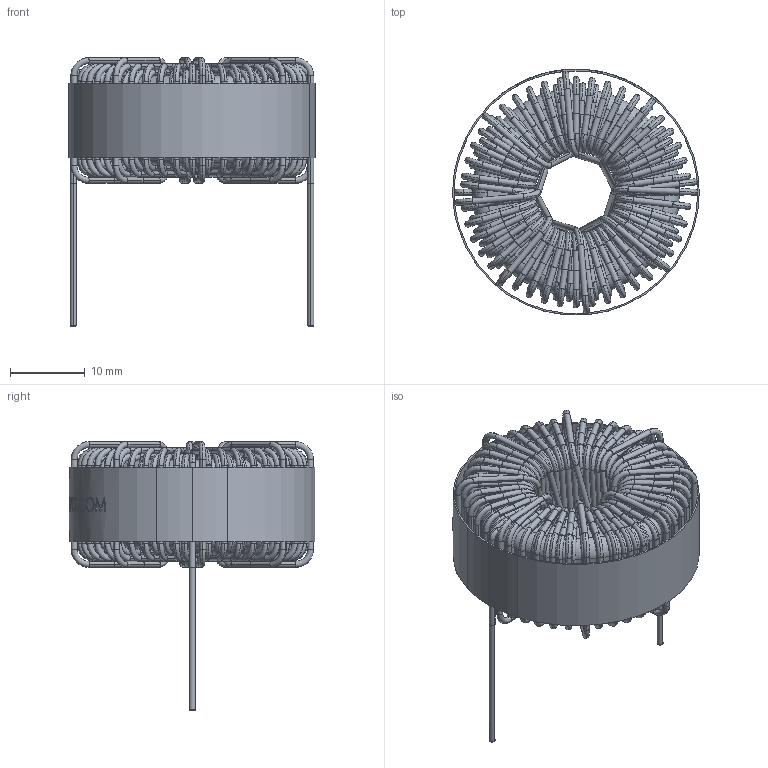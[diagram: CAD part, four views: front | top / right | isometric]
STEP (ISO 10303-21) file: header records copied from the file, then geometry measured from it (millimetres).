
FILE_DESCRIPTION (( 'STEP AP214' ), '1' );
FILE_NAME ('HF270-751M-3.0AH.STEP', '2022-02-25T04:48:17', ( '' ), ( '' ), 'SwSTEP 2.0', 'SolidWorks 2015', '' );
FILE_SCHEMA (( 'AUTOMOTIVE_DESIGN' ));
Length unit declared in the file: millimetre
Products named in the file (4): HF270-751M-3.0AH; wrapper; winding; core
Assembly tree (3 placements, depth 2):
  HF270-751M-3.0AH
    core
    winding
    wrapper
Bounding box: 32.95 x 32.86 x 35.89 mm (x, y, z)
Volume: 7460 mm3; surface area: 15083.4 mm2
Topology: 112 solids, 112 shells, 2250 faces, 5986 edges, 3976 vertices
Faces by surface type: cylinder 1060, torus 828, plane 259, bspline 103
Entity records: 82050 total; most frequent: CARTESIAN_POINT 19416, DIRECTION 14546, ORIENTED_EDGE 11972, AXIS2_PLACEMENT_3D 6741, EDGE_CURVE 5986, CIRCLE 4588, VERTEX_POINT 3976, EDGE_LOOP 2270
